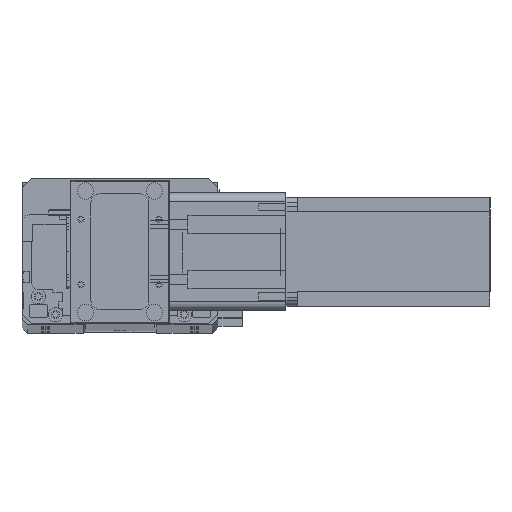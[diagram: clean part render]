
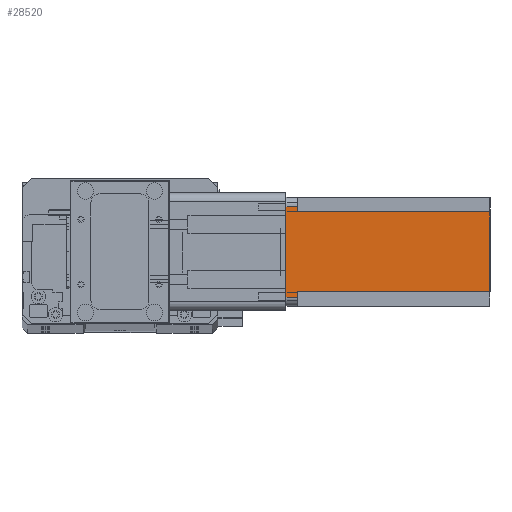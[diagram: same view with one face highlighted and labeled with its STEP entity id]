
A CAD part, top view. The second image highlights one B-rep face of the part: STEP entity #28520.
In plain terms, the highlighted planar face has unit normal (0, 0, 1) as drawn and (0, 1, 0) by its records, which use the part's own axes.
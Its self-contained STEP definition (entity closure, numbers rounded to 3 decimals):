
#372 = VECTOR ( 'NONE', #22842, 1000. ) ;
#1203 = CARTESIAN_POINT ( 'NONE',  ( 8., 60., -6.5 ) ) ;
#1581 = VERTEX_POINT ( 'NONE', #3177 ) ;
#1717 = AXIS2_PLACEMENT_3D ( 'NONE', #26362, #28778, #14415 ) ;
#2110 = ORIENTED_EDGE ( 'NONE', *, *, #25121, .F. ) ;
#2137 = VERTEX_POINT ( 'NONE', #25764 ) ;
#2151 = DIRECTION ( 'NONE',  ( 0., 0., 1. ) ) ;
#3177 = CARTESIAN_POINT ( 'NONE',  ( 52., 60., -6.5 ) ) ;
#3385 = DIRECTION ( 'NONE',  ( -1., 0., 0. ) ) ;
#3610 = DIRECTION ( 'NONE',  ( 0., 0., -1. ) ) ;
#3628 = VECTOR ( 'NONE', #11199, 1000. ) ;
#3781 = CARTESIAN_POINT ( 'NONE',  ( 8., 60., -112.5 ) ) ;
#4336 = CARTESIAN_POINT ( 'NONE',  ( 55., 60., 0. ) ) ;
#4382 = LINE ( 'NONE', #1203, #10068 ) ;
#4706 = ORIENTED_EDGE ( 'NONE', *, *, #25648, .T. ) ;
#5066 = EDGE_CURVE ( 'NONE', #28699, #22838, #4382, .T. ) ;
#6020 = CARTESIAN_POINT ( 'NONE',  ( 52., 60., -6.5 ) ) ;
#6413 = EDGE_CURVE ( 'NONE', #2137, #11526, #18640, .T. ) ;
#7126 = FACE_OUTER_BOUND ( 'NONE', #8598, .T. ) ;
#7186 = ORIENTED_EDGE ( 'NONE', *, *, #6413, .T. ) ;
#7810 = VERTEX_POINT ( 'NONE', #17759 ) ;
#8598 = EDGE_LOOP ( 'NONE', ( #26765, #12387, #25223, #2110, #7186, #30976, #22499, #4706 ) ) ;
#8792 = CARTESIAN_POINT ( 'NONE',  ( 0., 60., 0. ) ) ;
#9898 = CARTESIAN_POINT ( 'NONE',  ( 52., 60., -112.5 ) ) ;
#10068 = VECTOR ( 'NONE', #30010, 1000. ) ;
#11199 = DIRECTION ( 'NONE',  ( -1., 0., 0. ) ) ;
#11526 = VERTEX_POINT ( 'NONE', #11836 ) ;
#11836 = CARTESIAN_POINT ( 'NONE',  ( 8., 60., -112.5 ) ) ;
#12326 = DIRECTION ( 'NONE',  ( 0., 0., 1. ) ) ;
#12387 = ORIENTED_EDGE ( 'NONE', *, *, #26009, .T. ) ;
#13210 = LINE ( 'NONE', #6020, #372 ) ;
#13257 = VERTEX_POINT ( 'NONE', #4336 ) ;
#14415 = DIRECTION ( 'NONE',  ( 0., 0., 1. ) ) ;
#15270 = LINE ( 'NONE', #9898, #20851 ) ;
#15863 = EDGE_CURVE ( 'NONE', #1581, #17334, #13210, .T. ) ;
#16458 = LINE ( 'NONE', #8792, #3628 ) ;
#17334 = VERTEX_POINT ( 'NONE', #28153 ) ;
#17759 = CARTESIAN_POINT ( 'NONE',  ( 5., 60., 0. ) ) ;
#17899 = VECTOR ( 'NONE', #3385, 1000. ) ;
#18060 = CARTESIAN_POINT ( 'NONE',  ( 55., 60., -112.5 ) ) ;
#18220 = DIRECTION ( 'NONE',  ( 0., 0., -1. ) ) ;
#18640 = LINE ( 'NONE', #20214, #17899 ) ;
#18964 = EDGE_CURVE ( 'NONE', #28699, #11526, #28070, .T. ) ;
#19318 = CARTESIAN_POINT ( 'NONE',  ( 5., 60., -6.5 ) ) ;
#20214 = CARTESIAN_POINT ( 'NONE',  ( 0., 60., -112.5 ) ) ;
#20851 = VECTOR ( 'NONE', #12326, 1000. ) ;
#22251 = CARTESIAN_POINT ( 'NONE',  ( 8., 60., -6.5 ) ) ;
#22499 = ORIENTED_EDGE ( 'NONE', *, *, #5066, .T. ) ;
#22838 = VERTEX_POINT ( 'NONE', #19318 ) ;
#22842 = DIRECTION ( 'NONE',  ( 1., 0., 0. ) ) ;
#23214 = EDGE_CURVE ( 'NONE', #13257, #7810, #16458, .T. ) ;
#23730 = CARTESIAN_POINT ( 'NONE',  ( 5., 60., -112.5 ) ) ;
#23957 = PLANE ( 'NONE',  #1717 ) ;
#25121 = EDGE_CURVE ( 'NONE', #2137, #1581, #15270, .T. ) ;
#25223 = ORIENTED_EDGE ( 'NONE', *, *, #15863, .F. ) ;
#25336 = VECTOR ( 'NONE', #3610, 1000. ) ;
#25648 = EDGE_CURVE ( 'NONE', #22838, #7810, #26472, .T. ) ;
#25718 = VECTOR ( 'NONE', #2151, 1000. ) ;
#25764 = CARTESIAN_POINT ( 'NONE',  ( 52., 60., -112.5 ) ) ;
#26009 = EDGE_CURVE ( 'NONE', #13257, #17334, #29439, .T. ) ;
#26362 = CARTESIAN_POINT ( 'NONE',  ( 0., 60., -112.5 ) ) ;
#26472 = LINE ( 'NONE', #23730, #25718 ) ;
#26765 = ORIENTED_EDGE ( 'NONE', *, *, #23214, .F. ) ;
#27319 = VECTOR ( 'NONE', #18220, 1000. ) ;
#28070 = LINE ( 'NONE', #3781, #27319 ) ;
#28153 = CARTESIAN_POINT ( 'NONE',  ( 55., 60., -6.5 ) ) ;
#28520 = ADVANCED_FACE ( 'NONE', ( #7126 ), #23957, .T. ) ;
#28699 = VERTEX_POINT ( 'NONE', #22251 ) ;
#28778 = DIRECTION ( 'NONE',  ( 0., 1., 0. ) ) ;
#29439 = LINE ( 'NONE', #18060, #25336 ) ;
#30010 = DIRECTION ( 'NONE',  ( -1., 0., 0. ) ) ;
#30976 = ORIENTED_EDGE ( 'NONE', *, *, #18964, .F. ) ;
